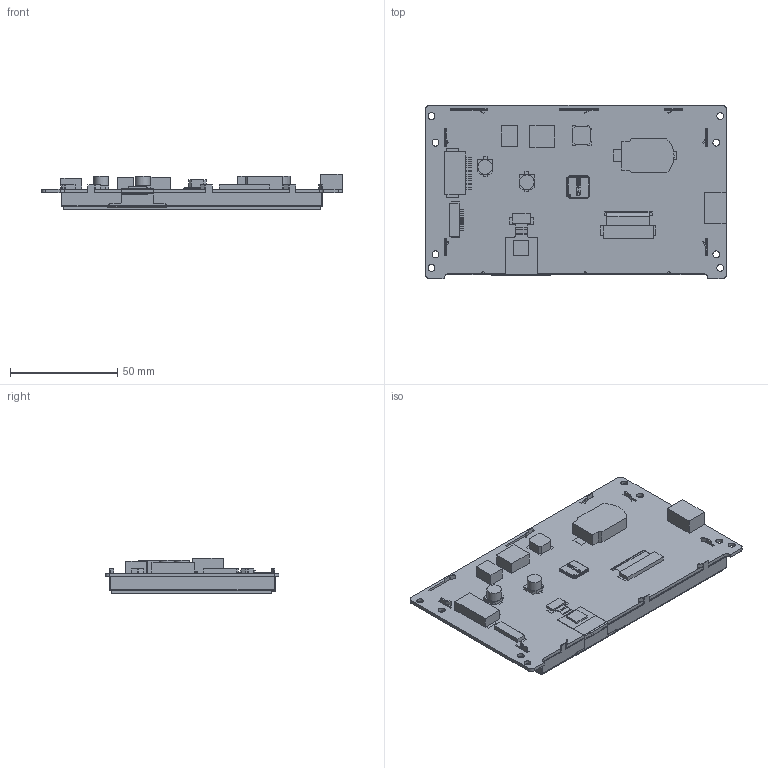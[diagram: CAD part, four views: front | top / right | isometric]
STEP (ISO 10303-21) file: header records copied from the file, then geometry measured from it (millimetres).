
FILE_DESCRIPTION(/* description */ (''),/* implementation_level */ '2;1');
FILE_NAME(/* name */ '',/* time_stamp */ '2023-07-27T11:43:13+08:00',/* author */ (''),/* organization */ (''),/* preprocessor_version */ 'ST-DEVELOPER v11',/* originating_system */ 'SIEMENS PLM Software NX 7.5',/* authorisation */ '');
FILE_SCHEMA (('AP203_CONFIGURATION_CONTROLLED_3D_DESIGN_OF_MECHANICAL_PARTS_AND_ASSEMBLIES_MIM_LF'));
Length unit declared in the file: millimetre
Products named in the file (1): 3D-SDWb050U74AC_stp
Bounding box: 140 x 80.9 x 16.6 mm (x, y, z)
Volume: 39195.9 mm3; surface area: 58795.1 mm2
Topology: 23 solids, 23 shells, 1584 faces, 4501 edges, 2977 vertices
Faces by surface type: plane 1376, cylinder 201, bspline 7
Full cylindrical faces by diameter (mm): 3.2 x8, 6.776 x2
Entity records: 53379 total; most frequent: CARTESIAN_POINT 9475, ORIENTED_EDGE 8978, DIRECTION 7964, EDGE_CURVE 4489, LINE 4048, VECTOR 4048, VERTEX_POINT 2975, AXIS2_PLACEMENT_3D 1958
